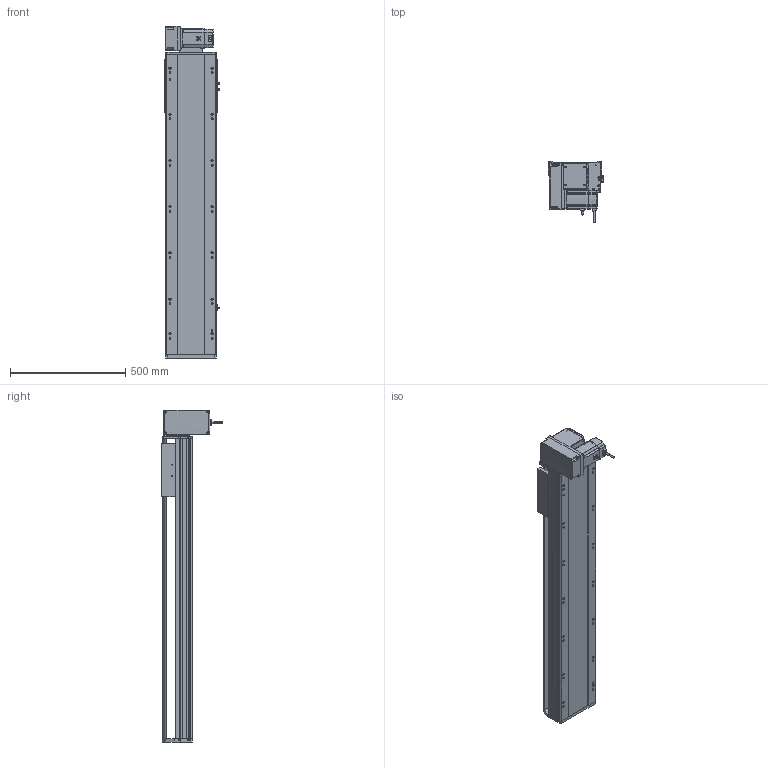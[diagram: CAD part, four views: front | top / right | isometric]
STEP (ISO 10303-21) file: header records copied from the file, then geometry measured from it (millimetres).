
FILE_DESCRIPTION (( 'STEP AP214' ), '1' );
FILE_NAME ('RTB22S-XX-950-LM-M75-C4.STEP', '2025-12-12T03:49:22', ( '' ), ( '' ), 'SwSTEP 2.0', 'SolidWorks 2018', '' );
FILE_SCHEMA (( 'AUTOMOTIVE_DESIGN' ));
Length unit declared in the file: millimetre
Products named in the file (14): RTB22S-GY-017P^RMP22S-LM-々湍釱蚾饜_RTB22S-XX-XX-LM-M75-C4; RTB22S-GY-001耜裔^RTB22S-XX-XX-LM-M75-C4; RTB22S-GY-007奻裔^RTB22S-XX-XX-LM-M75-C4; RMP22S-LM-々湍釱蚾饜^RTB22S-XX-XX-LM-M75-C4; RTB22S-GY-005P^RMP22S-LM-々湍釱蚾饜_RTB22S-XX-XX-LM-M75-C4; 750W萇儂^RTB22S-XX-XX-LM-M75-C4; RTB22S-GY-018P^RMP22S-LM-々湍釱蚾饜_RTB22S-XX-XX-LM-M75-C4; OMRON EE-SX672 传感器^RTB22S-XX-XX-LM-M75-C4; RTB22S-GY-008-M75--萇儂啣^RMP22S-LM-々湍釱蚾饜_RTB22S-XX-XX-LM-M75-C4; RTB22S-L-011菁釱^RTB22S-XX-XX-LM-M75-C4; RTH22-GY-013外置感应片^RTB22S-XX-XX-LM-M75-C4; RTB22S-GY-014--々湍釱^RMP22S-LM-々湍釱蚾饜_RTB22S-XX-XX-LM-M75-C4; RTB22S-L-004賑釱^RTB22S-XX-XX-LM-M75-C4; RTB22S-XX-950-LM-M75-C4
Assembly tree (16 placements, depth 3):
  RTB22S-XX-950-LM-M75-C4
    RTB22S-L-011菁釱^RTB22S-XX-XX-LM-M75-C4
    RTB22S-GY-001耜裔^RTB22S-XX-XX-LM-M75-C4
    750W萇儂^RTB22S-XX-XX-LM-M75-C4
    RTB22S-GY-007奻裔^RTB22S-XX-XX-LM-M75-C4
    RTB22S-L-004賑釱^RTB22S-XX-XX-LM-M75-C4
    RTH22-GY-013外置感应片^RTB22S-XX-XX-LM-M75-C4
    OMRON EE-SX672 传感器^RTB22S-XX-XX-LM-M75-C4  x3
    RMP22S-LM-々湍釱蚾饜^RTB22S-XX-XX-LM-M75-C4
      RTB22S-GY-014--々湍釱^RMP22S-LM-々湍釱蚾饜_RTB22S-XX-XX-LM-M75-C4
      RTB22S-GY-017P^RMP22S-LM-々湍釱蚾饜_RTB22S-XX-XX-LM-M75-C4  x2
      RTB22S-GY-005P^RMP22S-LM-々湍釱蚾饜_RTB22S-XX-XX-LM-M75-C4
      RTB22S-GY-008-M75--萇儂啣^RMP22S-LM-々湍釱蚾饜_RTB22S-XX-XX-LM-M75-C4
      RTB22S-GY-018P^RMP22S-LM-々湍釱蚾饜_RTB22S-XX-XX-LM-M75-C4
Bounding box: 238.5 x 264.7 x 1437.5 mm (x, y, z)
Volume: 20708030.6 mm3; surface area: 2157655.4 mm2
Topology: 15 solids, 15 shells, 1965 faces, 5336 edges, 3422 vertices
Faces by surface type: plane 913, cylinder 610, bspline 296, cone 134, sphere 8, torus 4
Entity records: 52110 total; most frequent: CARTESIAN_POINT 15024, ORIENTED_EDGE 7468, DIRECTION 7168, EDGE_CURVE 3734, AXIS2_PLACEMENT_3D 2522, VERTEX_POINT 2426, LINE 2124, VECTOR 2124
